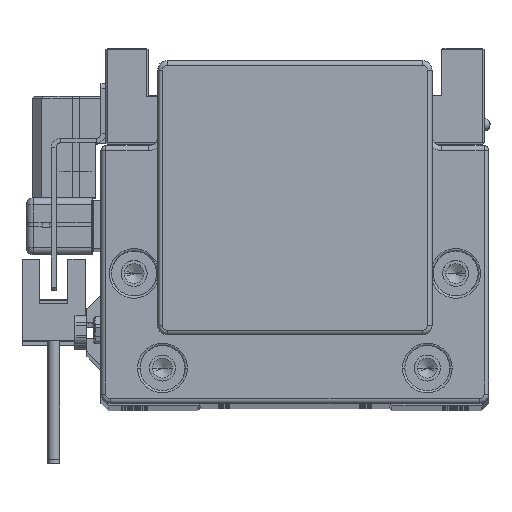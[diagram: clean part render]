
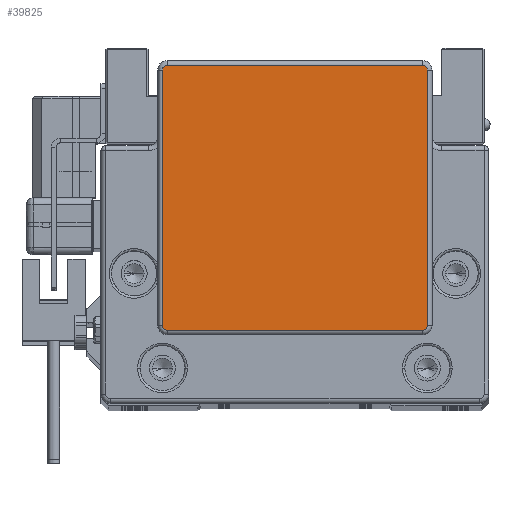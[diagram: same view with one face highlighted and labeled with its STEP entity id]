
A CAD part, top view. The second image highlights one B-rep face of the part: STEP entity #39825.
In plain terms, the highlighted planar face has unit normal (0, 0, 1).
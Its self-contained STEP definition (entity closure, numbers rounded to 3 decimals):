
#442 = VERTEX_POINT ( 'NONE', #3717 ) ;
#1243 = LINE ( 'NONE', #43098, #17580 ) ;
#1655 = EDGE_CURVE ( 'NONE', #17958, #25607, #18072, .T. ) ;
#3717 = CARTESIAN_POINT ( 'NONE',  ( -27., 35.25, 17. ) ) ;
#4404 = ORIENTED_EDGE ( 'NONE', *, *, #9416, .T. ) ;
#4538 = CARTESIAN_POINT ( 'NONE',  ( -27., -20.75, 17. ) ) ;
#4743 = VECTOR ( 'NONE', #5409, 1000. ) ;
#4928 = LINE ( 'NONE', #47265, #4743 ) ;
#5022 = EDGE_CURVE ( 'NONE', #38451, #442, #4928, .T. ) ;
#5409 = DIRECTION ( 'NONE',  ( -1., 0., 0. ) ) ;
#6590 = CARTESIAN_POINT ( 'NONE',  ( -28., -19.75, 17. ) ) ;
#7194 = AXIS2_PLACEMENT_3D ( 'NONE', #42570, #34783, #45816 ) ;
#7284 = AXIS2_PLACEMENT_3D ( 'NONE', #43053, #9181, #19895 ) ;
#9181 = DIRECTION ( 'NONE',  ( 0., 0., 1. ) ) ;
#9416 = EDGE_CURVE ( 'NONE', #25607, #11373, #44688, .T. ) ;
#9703 = CARTESIAN_POINT ( 'NONE',  ( 28., 34.25, 17. ) ) ;
#10589 = DIRECTION ( 'NONE',  ( 0., 1., 0. ) ) ;
#11284 = CARTESIAN_POINT ( 'NONE',  ( 27., -20.75, 17. ) ) ;
#11373 = VERTEX_POINT ( 'NONE', #9703 ) ;
#12254 = ORIENTED_EDGE ( 'NONE', *, *, #28498, .T. ) ;
#12341 = VERTEX_POINT ( 'NONE', #4538 ) ;
#13025 = ORIENTED_EDGE ( 'NONE', *, *, #1655, .T. ) ;
#14996 = DIRECTION ( 'NONE',  ( 1., 0., 0. ) ) ;
#15493 = LINE ( 'NONE', #11284, #47291 ) ;
#15943 = VERTEX_POINT ( 'NONE', #6590 ) ;
#16391 = PLANE ( 'NONE',  #21545 ) ;
#16595 = EDGE_CURVE ( 'NONE', #31686, #15943, #1243, .T. ) ;
#17359 = CARTESIAN_POINT ( 'NONE',  ( 27., -19.75, 17. ) ) ;
#17580 = VECTOR ( 'NONE', #45858, 1000. ) ;
#17958 = VERTEX_POINT ( 'NONE', #29033 ) ;
#18072 = CIRCLE ( 'NONE', #35578, 1. ) ;
#18581 = DIRECTION ( 'NONE',  ( 0., 0., 1. ) ) ;
#19895 = DIRECTION ( 'NONE',  ( 1., 0., 0. ) ) ;
#20381 = CARTESIAN_POINT ( 'NONE',  ( 28., -19.75, 17. ) ) ;
#21545 = AXIS2_PLACEMENT_3D ( 'NONE', #35353, #47507, #31600 ) ;
#22978 = ORIENTED_EDGE ( 'NONE', *, *, #35172, .T. ) ;
#24846 = DIRECTION ( 'NONE',  ( 1., 0., 0. ) ) ;
#25607 = VERTEX_POINT ( 'NONE', #20381 ) ;
#26702 = EDGE_CURVE ( 'NONE', #15943, #12341, #35861, .T. ) ;
#26843 = EDGE_LOOP ( 'NONE', ( #34143, #12254, #28090, #39783, #29843, #13025, #4404, #22978 ) ) ;
#27036 = DIRECTION ( 'NONE',  ( 1., 0., 0. ) ) ;
#27277 = AXIS2_PLACEMENT_3D ( 'NONE', #30290, #18581, #27036 ) ;
#28090 = ORIENTED_EDGE ( 'NONE', *, *, #16595, .T. ) ;
#28258 = CARTESIAN_POINT ( 'NONE',  ( -28., 34.25, 17. ) ) ;
#28498 = EDGE_CURVE ( 'NONE', #442, #31686, #48737, .T. ) ;
#28773 = CIRCLE ( 'NONE', #7284, 1. ) ;
#29033 = CARTESIAN_POINT ( 'NONE',  ( 27., -20.75, 17. ) ) ;
#29843 = ORIENTED_EDGE ( 'NONE', *, *, #45076, .T. ) ;
#30290 = CARTESIAN_POINT ( 'NONE',  ( -27., 34.25, 17. ) ) ;
#31600 = DIRECTION ( 'NONE',  ( 1., 0., 0. ) ) ;
#31686 = VERTEX_POINT ( 'NONE', #28258 ) ;
#33749 = CARTESIAN_POINT ( 'NONE',  ( 28., 34.25, 17. ) ) ;
#34143 = ORIENTED_EDGE ( 'NONE', *, *, #5022, .T. ) ;
#34783 = DIRECTION ( 'NONE',  ( 0., 0., 1. ) ) ;
#35172 = EDGE_CURVE ( 'NONE', #11373, #38451, #28773, .T. ) ;
#35353 = CARTESIAN_POINT ( 'NONE',  ( -27., -19.75, 17. ) ) ;
#35366 = VECTOR ( 'NONE', #10589, 1000. ) ;
#35578 = AXIS2_PLACEMENT_3D ( 'NONE', #17359, #36303, #24846 ) ;
#35861 = CIRCLE ( 'NONE', #7194, 1. ) ;
#36303 = DIRECTION ( 'NONE',  ( 0., 0., 1. ) ) ;
#38451 = VERTEX_POINT ( 'NONE', #40092 ) ;
#38819 = FACE_OUTER_BOUND ( 'NONE', #26843, .T. ) ;
#39783 = ORIENTED_EDGE ( 'NONE', *, *, #26702, .T. ) ;
#39825 = ADVANCED_FACE ( 'NONE', ( #38819 ), #16391, .T. ) ;
#40092 = CARTESIAN_POINT ( 'NONE',  ( 27., 35.25, 17. ) ) ;
#42570 = CARTESIAN_POINT ( 'NONE',  ( -27., -19.75, 17. ) ) ;
#43053 = CARTESIAN_POINT ( 'NONE',  ( 27., 34.25, 17. ) ) ;
#43098 = CARTESIAN_POINT ( 'NONE',  ( -28., -19.75, 17. ) ) ;
#44688 = LINE ( 'NONE', #33749, #35366 ) ;
#45076 = EDGE_CURVE ( 'NONE', #12341, #17958, #15493, .T. ) ;
#45816 = DIRECTION ( 'NONE',  ( 1., 0., 0. ) ) ;
#45858 = DIRECTION ( 'NONE',  ( 0., -1., 0. ) ) ;
#47265 = CARTESIAN_POINT ( 'NONE',  ( -27., 35.25, 17. ) ) ;
#47291 = VECTOR ( 'NONE', #14996, 1000. ) ;
#47507 = DIRECTION ( 'NONE',  ( 0., 0., 1. ) ) ;
#48737 = CIRCLE ( 'NONE', #27277, 1. ) ;
